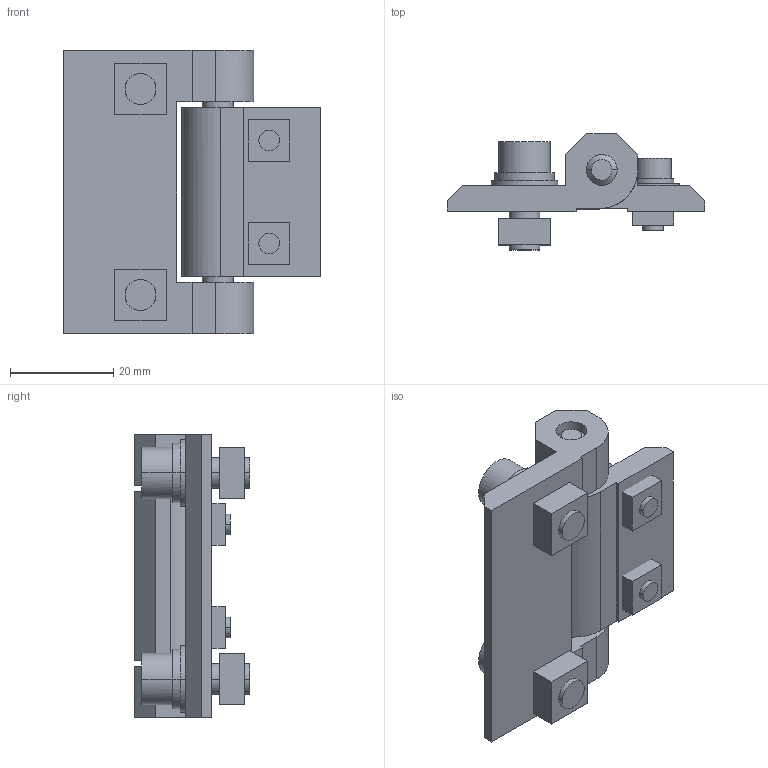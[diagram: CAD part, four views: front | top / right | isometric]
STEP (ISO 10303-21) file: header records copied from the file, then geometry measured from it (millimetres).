
FILE_DESCRIPTION(/* description */ (''),/* implementation_level */ '2;1');
FILE_NAME(/* name */ 'AHS-46',/* time_stamp */ '2012-02-02T14:15:25+09:00',/* author */ (''),/* organization */ (''),/* preprocessor_version */ 'ST-DEVELOPER v10',/* originating_system */ '',/* authorisation */ '');
FILE_SCHEMA (('CONFIG_CONTROL_DESIGN'));
Length unit declared in the file: millimetre
Products named in the file (1): 1
Bounding box: 50 x 22.5 x 55 mm (x, y, z)
Volume: 20341.2 mm3; surface area: 13402.7 mm2
Topology: 11 solids, 11 shells, 151 faces, 349 edges, 232 vertices
Faces by surface type: plane 86, bspline 65
Entity records: 4531 total; most frequent: CARTESIAN_POINT 2140, ORIENTED_EDGE 698, EDGE_CURVE 349, VERTEX_POINT 232, B_SPLINE_CURVE_WITH_KNOTS 221, EDGE_LOOP 185, ADVANCED_FACE 151, FACE_OUTER_BOUND 151
